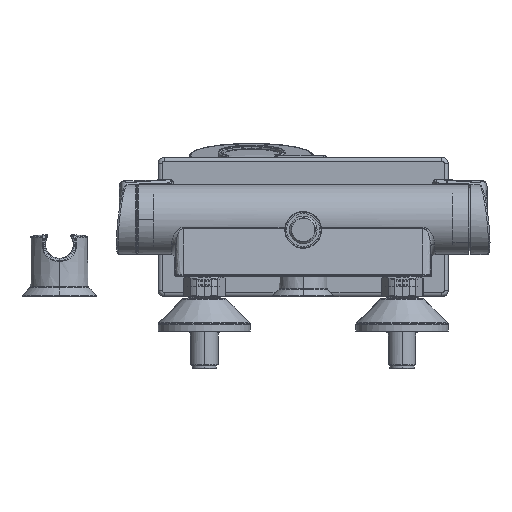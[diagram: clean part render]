
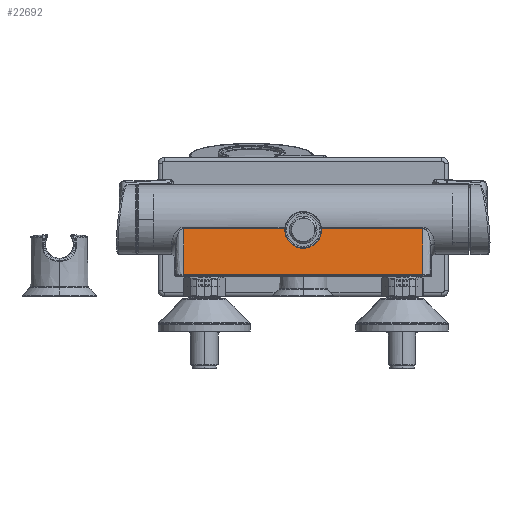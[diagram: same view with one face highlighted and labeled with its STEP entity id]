
A CAD part, front view. The second image highlights one B-rep face of the part: STEP entity #22692.
In plain terms, the highlighted planar face has unit normal (0, -0.995, 0.099).
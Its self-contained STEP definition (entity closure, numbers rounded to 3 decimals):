
#78 = VERTEX_POINT ( 'NONE', #16997 ) ;
#705 = CARTESIAN_POINT ( 'NONE',  ( 210.896, 52.597, 251.883 ) ) ;
#1527 = EDGE_CURVE ( 'NONE', #27730, #40726, #8741, .T. ) ;
#1863 =( BOUNDED_CURVE ( )  B_SPLINE_CURVE ( 3, ( #32797, #6359, #40425, #17796 ),
 .UNSPECIFIED., .F., .F. ) 
 B_SPLINE_CURVE_WITH_KNOTS ( ( 4, 4 ),
 ( 4.645, 4.712 ),
 .UNSPECIFIED. ) 
 CURVE ( )  GEOMETRIC_REPRESENTATION_ITEM ( )  RATIONAL_B_SPLINE_CURVE ( ( 1., 1., 1., 1. ) ) 
 REPRESENTATION_ITEM ( '' )  );
#2261 = CARTESIAN_POINT ( 'NONE',  ( 106.377, 56.065, 286.738 ) ) ;
#3204 = ORIENTED_EDGE ( 'NONE', *, *, #41050, .T. ) ;
#3939 = DIRECTION ( 'NONE',  ( 0.002, -0.099, -0.995 ) ) ;
#4112 = EDGE_CURVE ( 'NONE', #41868, #45928, #22506, .T. ) ;
#4123 = CARTESIAN_POINT ( 'NONE',  ( 210.893, 52.46, 250.504 ) ) ;
#4152 = VERTEX_POINT ( 'NONE', #23169 ) ;
#4400 = LINE ( 'NONE', #44206, #43503 ) ;
#4749 = PLANE ( 'NONE',  #35549 ) ;
#5238 = CARTESIAN_POINT ( 'NONE',  ( 106.346, 56.003, 286.116 ) ) ;
#5982 = CARTESIAN_POINT ( 'NONE',  ( 134.146, 53.206, 258.004 ) ) ;
#6023 = LINE ( 'NONE', #30700, #45102 ) ;
#6359 = CARTESIAN_POINT ( 'NONE',  ( 134.135, 56.034, 286.427 ) ) ;
#7506 = ORIENTED_EDGE ( 'NONE', *, *, #1527, .T. ) ;
#8083 = VECTOR ( 'NONE', #3939, 1000. ) ;
#8465 =( BOUNDED_CURVE ( )  B_SPLINE_CURVE ( 3, ( #29962, #5238, #33817, #11165 ),
 .UNSPECIFIED., .F., .F. ) 
 B_SPLINE_CURVE_WITH_KNOTS ( ( 4, 4 ),
 ( 1.571, 1.638 ),
 .UNSPECIFIED. ) 
 CURVE ( )  GEOMETRIC_REPRESENTATION_ITEM ( )  RATIONAL_B_SPLINE_CURVE ( ( 1., 1., 1., 1. ) ) 
 REPRESENTATION_ITEM ( '' )  );
#8535 = DIRECTION ( 'NONE',  ( 0., 0.995, -0.099 ) ) ;
#8741 =( BOUNDED_CURVE ( )  B_SPLINE_CURVE ( 3, ( #40058, #5982, #28608, #17418 ),
 .UNSPECIFIED., .F., .F. ) 
 B_SPLINE_CURVE_WITH_KNOTS ( ( 4, 4 ),
 ( 4.712, 7.854 ),
 .UNSPECIFIED. ) 
 CURVE ( )  GEOMETRIC_REPRESENTATION_ITEM ( )  RATIONAL_B_SPLINE_CURVE ( ( 1., 0.333, 0.333, 1. ) ) 
 REPRESENTATION_ITEM ( '' )  );
#9457 = ORIENTED_EDGE ( 'NONE', *, *, #21926, .T. ) ;
#9851 = VERTEX_POINT ( 'NONE', #2261 ) ;
#10449 = DIRECTION ( 'NONE',  ( -1., 0., 0. ) ) ;
#11165 = CARTESIAN_POINT ( 'NONE',  ( 106.377, 56.065, 286.738 ) ) ;
#11236 = VECTOR ( 'NONE', #45190, 1000. ) ;
#12450 = ORIENTED_EDGE ( 'NONE', *, *, #43985, .T. ) ;
#12459 = DIRECTION ( 'NONE',  ( 1., 0., 0. ) ) ;
#15215 = CARTESIAN_POINT ( 'NONE',  ( 216.746, 52.261, 248.504 ) ) ;
#16997 = CARTESIAN_POINT ( 'NONE',  ( 29.595, 52.597, 251.883 ) ) ;
#17288 = CARTESIAN_POINT ( 'NONE',  ( 210.974, 56.065, 286.738 ) ) ;
#17418 = CARTESIAN_POINT ( 'NONE',  ( 106.346, 55.972, 285.804 ) ) ;
#17712 = VERTEX_POINT ( 'NONE', #30121 ) ;
#17796 = CARTESIAN_POINT ( 'NONE',  ( 134.146, 55.972, 285.804 ) ) ;
#18107 = EDGE_CURVE ( 'NONE', #17712, #78, #38302, .T. ) ;
#21926 = EDGE_CURVE ( 'NONE', #45928, #4152, #4400, .T. ) ;
#22506 = LINE ( 'NONE', #4123, #11236 ) ;
#22692 = ADVANCED_FACE ( 'NONE', ( #23905 ), #4749, .F. ) ;
#22822 = CARTESIAN_POINT ( 'NONE',  ( 29.516, 56.114, 287.233 ) ) ;
#23169 = CARTESIAN_POINT ( 'NONE',  ( 134.114, 56.065, 286.738 ) ) ;
#23368 = CARTESIAN_POINT ( 'NONE',  ( 134.146, 55.972, 285.804 ) ) ;
#23905 = FACE_OUTER_BOUND ( 'NONE', #36684, .T. ) ;
#27433 = EDGE_CURVE ( 'NONE', #40726, #9851, #8465, .T. ) ;
#27730 = VERTEX_POINT ( 'NONE', #23368 ) ;
#27947 = ORIENTED_EDGE ( 'NONE', *, *, #18107, .T. ) ;
#28608 = CARTESIAN_POINT ( 'NONE',  ( 106.346, 53.206, 258.004 ) ) ;
#28972 = LINE ( 'NONE', #38919, #45581 ) ;
#29502 = ORIENTED_EDGE ( 'NONE', *, *, #35792, .T. ) ;
#29962 = CARTESIAN_POINT ( 'NONE',  ( 106.346, 55.972, 285.804 ) ) ;
#30121 = CARTESIAN_POINT ( 'NONE',  ( 29.517, 56.065, 286.738 ) ) ;
#30700 = CARTESIAN_POINT ( 'NONE',  ( 29.516, 56.065, 286.738 ) ) ;
#32797 = CARTESIAN_POINT ( 'NONE',  ( 134.114, 56.065, 286.738 ) ) ;
#33817 = CARTESIAN_POINT ( 'NONE',  ( 106.356, 56.034, 286.427 ) ) ;
#35012 = DIRECTION ( 'NONE',  ( 0., 0.099, 0.995 ) ) ;
#35549 = AXIS2_PLACEMENT_3D ( 'NONE', #15215, #8535, #35012 ) ;
#35792 = EDGE_CURVE ( 'NONE', #4152, #27730, #1863, .T. ) ;
#36684 = EDGE_LOOP ( 'NONE', ( #29502, #7506, #41780, #3204, #27947, #12450, #48722, #9457 ) ) ;
#38302 = LINE ( 'NONE', #22822, #8083 ) ;
#38919 = CARTESIAN_POINT ( 'NONE',  ( 216.746, 52.597, 251.883 ) ) ;
#40058 = CARTESIAN_POINT ( 'NONE',  ( 134.146, 55.972, 285.804 ) ) ;
#40373 = CARTESIAN_POINT ( 'NONE',  ( 106.346, 55.972, 285.804 ) ) ;
#40425 = CARTESIAN_POINT ( 'NONE',  ( 134.146, 56.003, 286.116 ) ) ;
#40726 = VERTEX_POINT ( 'NONE', #40373 ) ;
#41050 = EDGE_CURVE ( 'NONE', #9851, #17712, #6023, .T. ) ;
#41780 = ORIENTED_EDGE ( 'NONE', *, *, #27433, .T. ) ;
#41868 = VERTEX_POINT ( 'NONE', #705 ) ;
#42636 = DIRECTION ( 'NONE',  ( -1., 0., 0. ) ) ;
#43503 = VECTOR ( 'NONE', #10449, 1000. ) ;
#43985 = EDGE_CURVE ( 'NONE', #78, #41868, #28972, .T. ) ;
#44206 = CARTESIAN_POINT ( 'NONE',  ( 134.275, 56.065, 286.738 ) ) ;
#45102 = VECTOR ( 'NONE', #42636, 1000. ) ;
#45190 = DIRECTION ( 'NONE',  ( 0.002, 0.099, 0.995 ) ) ;
#45581 = VECTOR ( 'NONE', #12459, 1000. ) ;
#45928 = VERTEX_POINT ( 'NONE', #17288 ) ;
#48722 = ORIENTED_EDGE ( 'NONE', *, *, #4112, .T. ) ;
